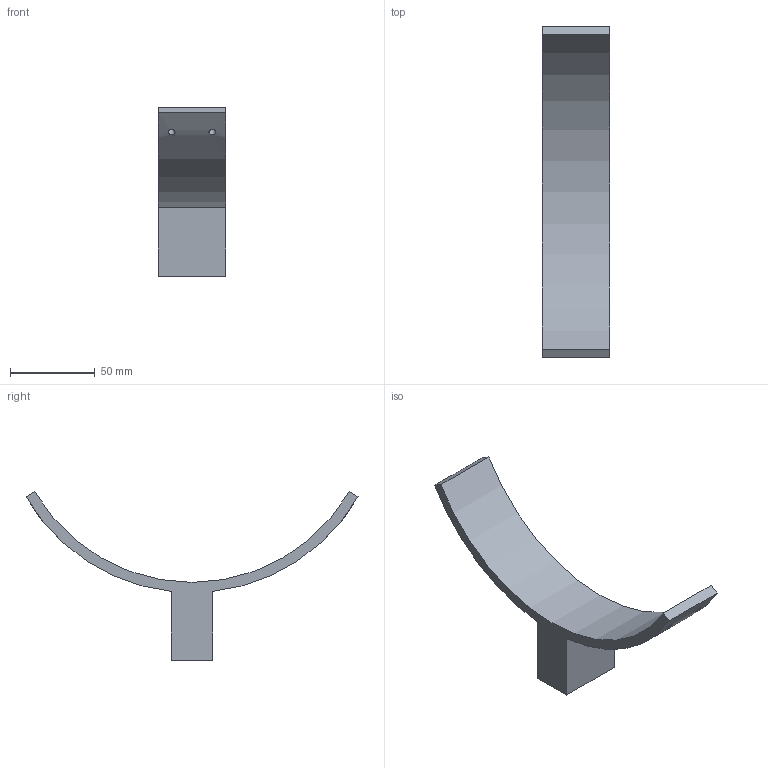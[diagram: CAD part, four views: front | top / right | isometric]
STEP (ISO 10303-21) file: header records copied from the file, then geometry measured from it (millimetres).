
FILE_DESCRIPTION(('Open CASCADE Model'),'2;1');
FILE_NAME('Open CASCADE Shape Model','2026-11-02T23:22:41',('Author'),( 'Open CASCADE'),'Open CASCADE STEP processor 7.9','Open CASCADE 7.9' ,'Unknown');
FILE_SCHEMA(('AUTOMOTIVE_DESIGN { 1 0 10303 214 1 1 1 1 }'));
Length unit declared in the file: millimetre
Products named in the file (1): Open CASCADE STEP translator 7.9 22
Bounding box: 40 x 195.72 x 99.5 mm (x, y, z)
Volume: 86036.2 mm3; surface area: 29082.3 mm2
Topology: 1 solids, 1 shells, 20 faces, 39 edges, 26 vertices
Faces by surface type: plane 12, cylinder 8
Full cylindrical faces by diameter (mm): 4 x4, 16.2 x1
Entity records: 1598 total; most frequent: CARTESIAN_POINT 768, DIRECTION 153, ORIENTED_EDGE 78, PCURVE 78, DEFINITIONAL_REPRESENTATION 78, LINE 77, VECTOR 77, EDGE_CURVE 39
